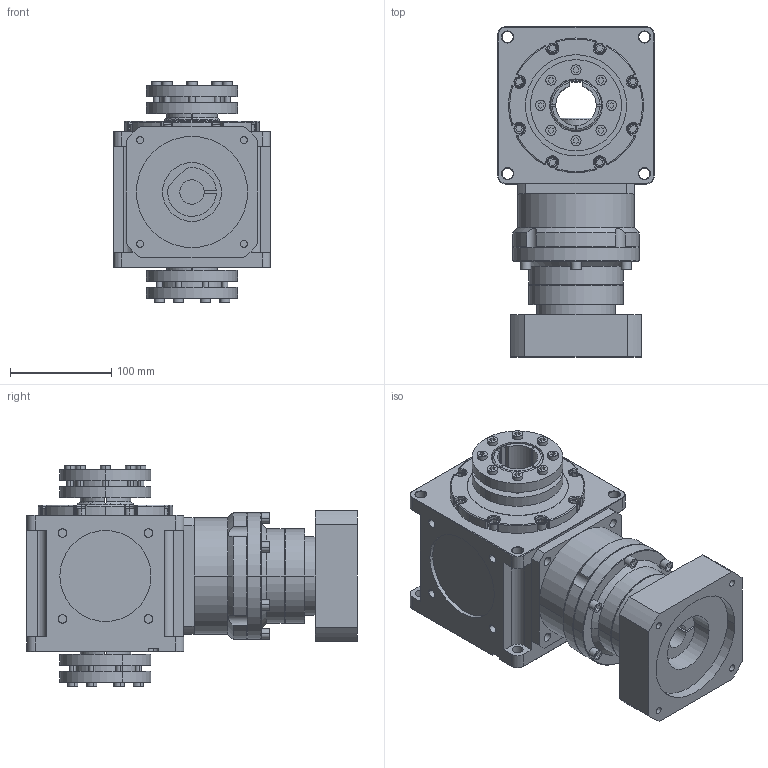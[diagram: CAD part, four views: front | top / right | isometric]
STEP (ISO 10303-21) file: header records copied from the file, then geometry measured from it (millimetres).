
FILE_DESCRIPTION (( 'STEP AP214' ), '1' );
FILE_NAME ('CCW155A-L2(24-200)-2HP-K 24-110-145-M8.STEP', '2025-05-24T07:50:24', ( '微软用户' ), ( '微软中国' ), 'SwSTEP 2.0', 'SolidWorks 2024', '' );
FILE_SCHEMA (( 'AUTOMOTIVE_DESIGN' ));
Length unit declared in the file: millimetre
Products named in the file (4): CCW155A-L2(24-200)-2HP-K 24-110-145-M8; VRB-115-L2-S2-P1 24-110-145-M8; CCW155A-002-2HP-K箱体; 外紧固型胀紧套[50-90]_EDO-50-90
Assembly tree (4 placements, depth 2):
  CCW155A-L2(24-200)-2HP-K 24-110-145-M8
    CCW155A-002-2HP-K箱体
    外紧固型胀紧套[50-90]_EDO-50-90  x2
    VRB-115-L2-S2-P1 24-110-145-M8
Bounding box: 155 x 326 x 218 mm (x, y, z)
Volume: 4995289.8 mm3; surface area: 400408.7 mm2
Topology: 4 solids, 4 shells, 914 faces, 2206 edges, 1400 vertices
Faces by surface type: plane 428, cylinder 358, torus 63, cone 49, sphere 16
Entity records: 23373 total; most frequent: CARTESIAN_POINT 4476, DIRECTION 4178, ORIENTED_EDGE 3728, EDGE_CURVE 1864, AXIS2_PLACEMENT_3D 1588, VERTEX_POINT 1184, VECTOR 1002, LINE 1002
